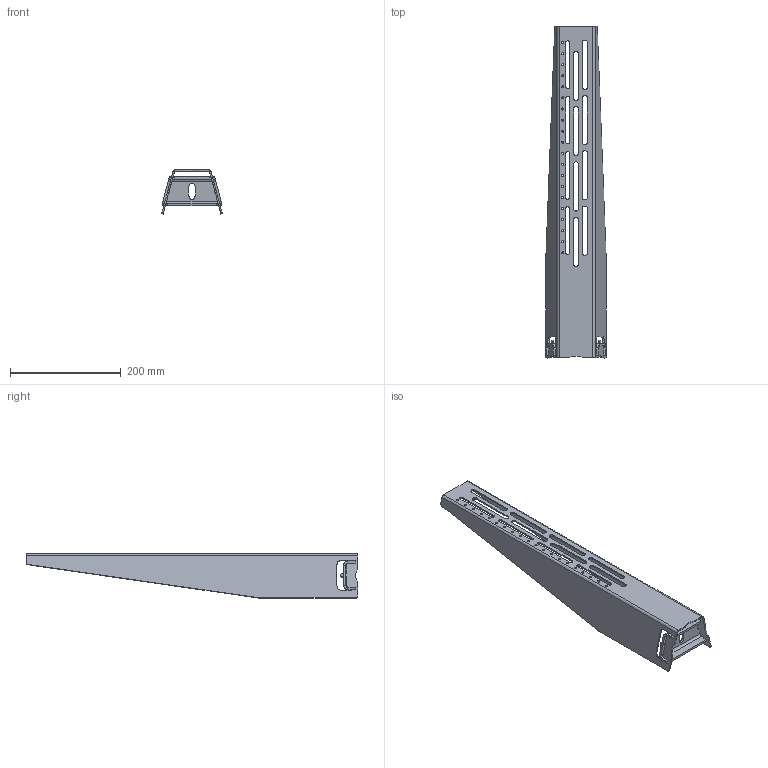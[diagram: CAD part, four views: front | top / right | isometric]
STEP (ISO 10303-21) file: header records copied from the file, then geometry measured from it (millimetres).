
FILE_DESCRIPTION (( 'STEP AP214' ), '1' );
FILE_NAME ('080043-11X11X0600 KONSOLE 0800 600M.STEP', '2013-01-17T10:35:08', ( '' ), ( '' ), 'SwSTEP 2.0', 'SolidWorks 2012', '' );
FILE_SCHEMA (( 'AUTOMOTIVE_DESIGN' ));
Length unit declared in the file: millimetre
Products named in the file (3): 08-B020-6772; 08-B020-6748; 080043-11X11X0600 KONSOLE 0800 600M
Assembly tree (2 placements, depth 2):
  080043-11X11X0600 KONSOLE 0800 600M
    08-B020-6748
    08-B020-6772
Bounding box: 109.31 x 600 x 79.77 mm (x, y, z)
Volume: 274521.1 mm3; surface area: 223717 mm2
Topology: 2 solids, 2 shells, 286 faces, 814 edges, 532 vertices
Faces by surface type: cylinder 163, plane 119, bspline 4
Entity records: 11831 total; most frequent: CARTESIAN_POINT 1769, DIRECTION 1698, ORIENTED_EDGE 1628, EDGE_CURVE 814, AXIS2_PLACEMENT_3D 605, VERTEX_POINT 532, VECTOR 488, LINE 488
